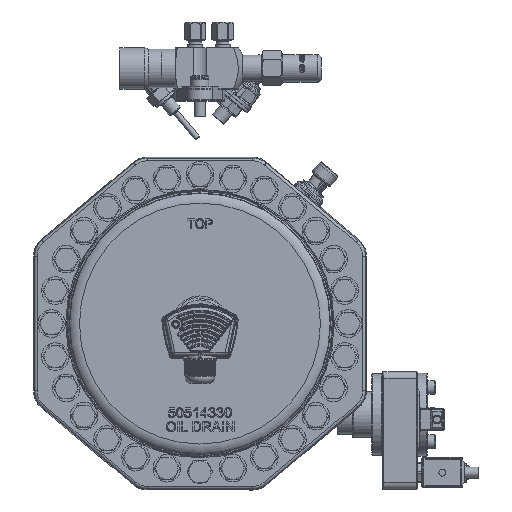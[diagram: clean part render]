
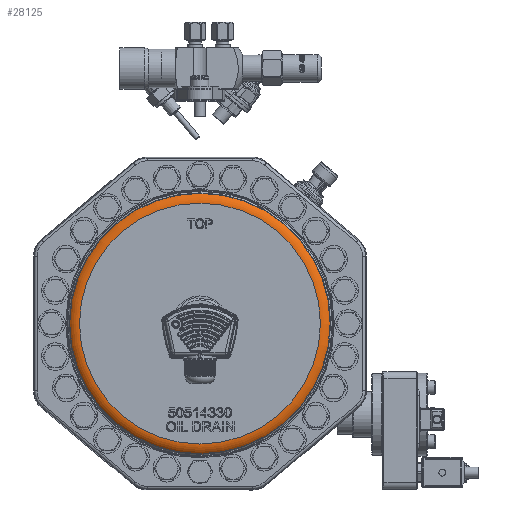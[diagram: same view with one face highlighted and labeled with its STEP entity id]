
A CAD part, front view. The second image highlights one B-rep face of the part: STEP entity #28125.
In plain terms, the highlighted toroidal (fillet/blend) face has major radius 87.283 mm and minor radius 10 mm.
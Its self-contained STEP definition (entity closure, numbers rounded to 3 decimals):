
#4908=TOROIDAL_SURFACE('',#74404,87.283,10.);
#28125=ADVANCED_FACE('',(#32133,#32134),#4908,.T.);
#32133=FACE_BOUND('',#34208,.T.);
#32134=FACE_BOUND('',#34209,.T.);
#34208=EDGE_LOOP('',(#41902));
#34209=EDGE_LOOP('',(#41903));
#41902=ORIENTED_EDGE('',*,*,#63642,.F.);
#41903=ORIENTED_EDGE('',*,*,#63617,.F.);
#57046=VERTEX_POINT('',#105618);
#57071=VERTEX_POINT('',#105693);
#63617=EDGE_CURVE('',#57046,#57046,#70995,.T.);
#63642=EDGE_CURVE('',#57071,#57071,#71020,.T.);
#70995=CIRCLE('',#74353,87.283);
#71020=CIRCLE('',#74403,94.354);
#74353=AXIS2_PLACEMENT_3D('',#105617,#82897,#82898);
#74403=AXIS2_PLACEMENT_3D('',#105692,#82997,#82998);
#74404=AXIS2_PLACEMENT_3D('',#105694,#82999,#83000);
#82897=DIRECTION('',(0.,0.,1.));
#82898=DIRECTION('',(1.,0.,0.));
#82997=DIRECTION('',(0.,0.,-1.));
#82998=DIRECTION('',(1.,0.,0.));
#82999=DIRECTION('',(0.,0.,1.));
#83000=DIRECTION('',(1.,0.,0.));
#105617=CARTESIAN_POINT('',(0.,0.,29.));
#105618=CARTESIAN_POINT('',(87.283,0.,29.));
#105692=CARTESIAN_POINT('',(0.,0.,26.071));
#105693=CARTESIAN_POINT('',(94.354,0.,26.071));
#105694=CARTESIAN_POINT('',(0.,0.,19.));
